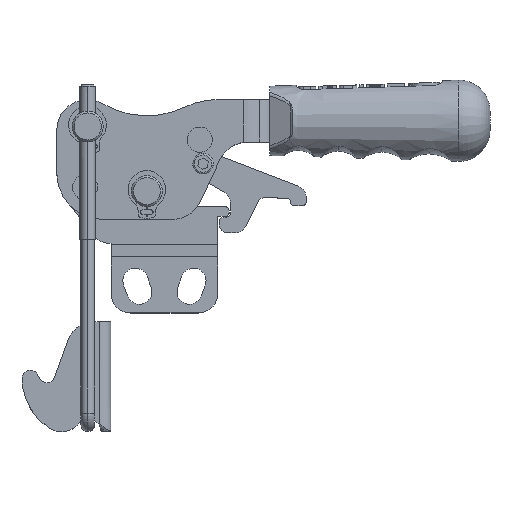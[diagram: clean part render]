
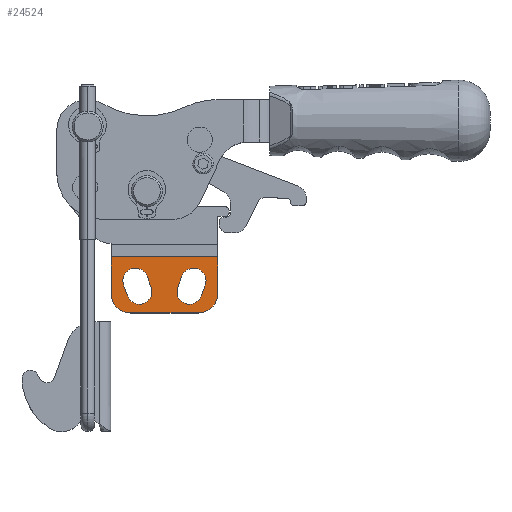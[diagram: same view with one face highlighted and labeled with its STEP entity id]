
A CAD part, top view. The second image highlights one B-rep face of the part: STEP entity #24524.
In plain terms, the highlighted planar face has unit normal (0, 0, 1).
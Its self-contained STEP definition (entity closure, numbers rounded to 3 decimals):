
#19 = ORIENTED_EDGE ( 'NONE', *, *, #10443, .F. ) ;
#318 = EDGE_CURVE ( 'NONE', #23243, #12589, #3083, .T. ) ;
#336 = DIRECTION ( 'NONE',  ( 0., -1., 0. ) ) ;
#1198 = EDGE_CURVE ( 'NONE', #22083, #9588, #5822, .T. ) ;
#2137 = CARTESIAN_POINT ( 'NONE',  ( 4.186, -13.583, 0. ) ) ;
#2166 = AXIS2_PLACEMENT_3D ( 'NONE', #2825, #16429, #14154 ) ;
#2336 = CARTESIAN_POINT ( 'NONE',  ( 22.5, -13., 0. ) ) ;
#2634 = ORIENTED_EDGE ( 'NONE', *, *, #10300, .F. ) ;
#2715 = EDGE_CURVE ( 'NONE', #5722, #26329, #6144, .T. ) ;
#2825 = CARTESIAN_POINT ( 'NONE',  ( 7.25, -12.5, 0. ) ) ;
#3083 = CIRCLE ( 'NONE', #2166, 3.25 ) ;
#3453 = ORIENTED_EDGE ( 'NONE', *, *, #10795, .F. ) ;
#3463 = AXIS2_PLACEMENT_3D ( 'NONE', #22705, #5829, #27393 ) ;
#3555 = CARTESIAN_POINT ( 'NONE',  ( 10.314, -11.417, 0. ) ) ;
#3557 = ORIENTED_EDGE ( 'NONE', *, *, #9623, .T. ) ;
#3639 = DIRECTION ( 'NONE',  ( 0.333, -0.943, 0. ) ) ;
#3735 = EDGE_LOOP ( 'NONE', ( #26085, #3557, #6749, #21512, #20389, #21304 ) ) ;
#4722 = CARTESIAN_POINT ( 'NONE',  ( 20.25, -12.5, 0. ) ) ;
#4758 = FACE_OUTER_BOUND ( 'NONE', #3735, .T. ) ;
#5192 = FACE_BOUND ( 'NONE', #6584, .T. ) ;
#5288 = DIRECTION ( 'NONE',  ( 0., 1., 0. ) ) ;
#5722 = VERTEX_POINT ( 'NONE', #10941 ) ;
#5822 = CIRCLE ( 'NONE', #9421, 5. ) ;
#5827 = AXIS2_PLACEMENT_3D ( 'NONE', #6234, #10332, #15006 ) ;
#5829 = DIRECTION ( 'NONE',  ( 0., 0., 1. ) ) ;
#6144 = LINE ( 'NONE', #13054, #25807 ) ;
#6170 = VECTOR ( 'NONE', #7130, 1000. ) ;
#6234 = CARTESIAN_POINT ( 'NONE',  ( 7.25, -12.5, 0. ) ) ;
#6584 = EDGE_LOOP ( 'NONE', ( #22900, #8949, #19884, #2634, #7538 ) ) ;
#6728 = DIRECTION ( 'NONE',  ( 1., 0., 0. ) ) ;
#6749 = ORIENTED_EDGE ( 'NONE', *, *, #26435, .T. ) ;
#6839 = CARTESIAN_POINT ( 'NONE',  ( 5., -18., 0. ) ) ;
#6990 = VERTEX_POINT ( 'NONE', #8368 ) ;
#7130 = DIRECTION ( 'NONE',  ( -1., 0., 0. ) ) ;
#7196 = CARTESIAN_POINT ( 'NONE',  ( 3.186, -10.755, 0. ) ) ;
#7458 = CARTESIAN_POINT ( 'NONE',  ( 0., -18., 0. ) ) ;
#7503 = ORIENTED_EDGE ( 'NONE', *, *, #21765, .F. ) ;
#7538 = ORIENTED_EDGE ( 'NONE', *, *, #23654, .F. ) ;
#7619 = CIRCLE ( 'NONE', #18917, 3.25 ) ;
#7723 = VECTOR ( 'NONE', #336, 1000. ) ;
#7735 = LINE ( 'NONE', #7458, #12694 ) ;
#7834 = LINE ( 'NONE', #16472, #9356 ) ;
#7914 = ORIENTED_EDGE ( 'NONE', *, *, #2715, .F. ) ;
#8368 = CARTESIAN_POINT ( 'NONE',  ( 27.5, -3.471, 0. ) ) ;
#8949 = ORIENTED_EDGE ( 'NONE', *, *, #26097, .F. ) ;
#9318 = VERTEX_POINT ( 'NONE', #9890 ) ;
#9356 = VECTOR ( 'NONE', #27412, 1000. ) ;
#9421 = AXIS2_PLACEMENT_3D ( 'NONE', #2336, #10974, #6728 ) ;
#9588 = VERTEX_POINT ( 'NONE', #15773 ) ;
#9623 = EDGE_CURVE ( 'NONE', #6990, #21643, #16202, .T. ) ;
#9890 = CARTESIAN_POINT ( 'NONE',  ( 17.186, -11.417, 0. ) ) ;
#10300 = EDGE_CURVE ( 'NONE', #26545, #17621, #22976, .T. ) ;
#10332 = DIRECTION ( 'NONE',  ( 0., 0., 1. ) ) ;
#10427 = EDGE_CURVE ( 'NONE', #13165, #15154, #25208, .T. ) ;
#10443 = EDGE_CURVE ( 'NONE', #26329, #25188, #24747, .T. ) ;
#10795 = EDGE_CURVE ( 'NONE', #25188, #9318, #7834, .T. ) ;
#10941 = CARTESIAN_POINT ( 'NONE',  ( 23.314, -13.583, 0. ) ) ;
#10974 = DIRECTION ( 'NONE',  ( 0., 0., 1. ) ) ;
#11413 = DIRECTION ( 'NONE',  ( 0., -1., 0. ) ) ;
#11557 = VERTEX_POINT ( 'NONE', #7196 ) ;
#11693 = CARTESIAN_POINT ( 'NONE',  ( 0., -3.471, 0. ) ) ;
#11972 = DIRECTION ( 'NONE',  ( 0., 0., 1. ) ) ;
#12338 = DIRECTION ( 'NONE',  ( 0., 1., 0. ) ) ;
#12473 = VERTEX_POINT ( 'NONE', #21296 ) ;
#12589 = VERTEX_POINT ( 'NONE', #21844 ) ;
#12609 = DIRECTION ( 'NONE',  ( 0., 0., 1. ) ) ;
#12694 = VECTOR ( 'NONE', #16373, 1000. ) ;
#13054 = CARTESIAN_POINT ( 'NONE',  ( 23.314, -13.583, 0. ) ) ;
#13165 = VERTEX_POINT ( 'NONE', #25204 ) ;
#13593 = CIRCLE ( 'NONE', #19920, 3.25 ) ;
#13683 = AXIS2_PLACEMENT_3D ( 'NONE', #15949, #24041, #22332 ) ;
#14098 = EDGE_CURVE ( 'NONE', #17621, #11557, #7619, .T. ) ;
#14154 = DIRECTION ( 'NONE',  ( 0., 1., 0. ) ) ;
#14183 = DIRECTION ( 'NONE',  ( 1., 0., 0. ) ) ;
#15006 = DIRECTION ( 'NONE',  ( 0., 1., 0. ) ) ;
#15097 = CARTESIAN_POINT ( 'NONE',  ( 24.314, -10.755, 0. ) ) ;
#15154 = VERTEX_POINT ( 'NONE', #6839 ) ;
#15368 = CARTESIAN_POINT ( 'NONE',  ( 0., 0., 0. ) ) ;
#15672 = AXIS2_PLACEMENT_3D ( 'NONE', #18432, #16458, #14183 ) ;
#15773 = CARTESIAN_POINT ( 'NONE',  ( 27.5, -13., 0. ) ) ;
#15949 = CARTESIAN_POINT ( 'NONE',  ( 9.2, 13.5, 0. ) ) ;
#16202 = LINE ( 'NONE', #26572, #6170 ) ;
#16292 = EDGE_CURVE ( 'NONE', #9588, #6990, #20291, .T. ) ;
#16359 = AXIS2_PLACEMENT_3D ( 'NONE', #4722, #25729, #21730 ) ;
#16373 = DIRECTION ( 'NONE',  ( 1., 0., 0. ) ) ;
#16429 = DIRECTION ( 'NONE',  ( 0., 0., 1. ) ) ;
#16458 = DIRECTION ( 'NONE',  ( 0., 0., 1. ) ) ;
#16472 = CARTESIAN_POINT ( 'NONE',  ( 17.186, -11.417, 0. ) ) ;
#17477 = VECTOR ( 'NONE', #25396, 1000. ) ;
#17584 = CIRCLE ( 'NONE', #5827, 3.25 ) ;
#17621 = VERTEX_POINT ( 'NONE', #27761 ) ;
#17931 = ORIENTED_EDGE ( 'NONE', *, *, #20547, .F. ) ;
#18063 = FACE_BOUND ( 'NONE', #21987, .T. ) ;
#18432 = CARTESIAN_POINT ( 'NONE',  ( 5., -13., 0. ) ) ;
#18917 = AXIS2_PLACEMENT_3D ( 'NONE', #20304, #12609, #12338 ) ;
#19884 = ORIENTED_EDGE ( 'NONE', *, *, #14098, .F. ) ;
#19920 = AXIS2_PLACEMENT_3D ( 'NONE', #20057, #11972, #11413 ) ;
#20057 = CARTESIAN_POINT ( 'NONE',  ( 20.25, -12.5, 0. ) ) ;
#20291 = LINE ( 'NONE', #24850, #22755 ) ;
#20304 = CARTESIAN_POINT ( 'NONE',  ( 6.25, -9.672, 0. ) ) ;
#20342 = PLANE ( 'NONE',  #13683 ) ;
#20389 = ORIENTED_EDGE ( 'NONE', *, *, #21664, .T. ) ;
#20511 = LINE ( 'NONE', #20790, #22329 ) ;
#20547 = EDGE_CURVE ( 'NONE', #9318, #12473, #21798, .T. ) ;
#20790 = CARTESIAN_POINT ( 'NONE',  ( 4.186, -13.583, 0. ) ) ;
#21008 = CARTESIAN_POINT ( 'NONE',  ( 10.314, -11.417, 0. ) ) ;
#21296 = CARTESIAN_POINT ( 'NONE',  ( 20.25, -15.75, 0. ) ) ;
#21304 = ORIENTED_EDGE ( 'NONE', *, *, #1198, .T. ) ;
#21512 = ORIENTED_EDGE ( 'NONE', *, *, #10427, .T. ) ;
#21643 = VERTEX_POINT ( 'NONE', #11693 ) ;
#21664 = EDGE_CURVE ( 'NONE', #15154, #22083, #7735, .T. ) ;
#21730 = DIRECTION ( 'NONE',  ( 0., -1., 0. ) ) ;
#21765 = EDGE_CURVE ( 'NONE', #12473, #5722, #13593, .T. ) ;
#21798 = CIRCLE ( 'NONE', #16359, 3.25 ) ;
#21844 = CARTESIAN_POINT ( 'NONE',  ( 7.25, -15.75, 0. ) ) ;
#21987 = EDGE_LOOP ( 'NONE', ( #17931, #3453, #19, #7914, #7503 ) ) ;
#22083 = VERTEX_POINT ( 'NONE', #22682 ) ;
#22329 = VECTOR ( 'NONE', #3639, 1000. ) ;
#22332 = DIRECTION ( 'NONE',  ( 1., 0., 0. ) ) ;
#22682 = CARTESIAN_POINT ( 'NONE',  ( 22.5, -18., 0. ) ) ;
#22705 = CARTESIAN_POINT ( 'NONE',  ( 21.25, -9.672, 0. ) ) ;
#22755 = VECTOR ( 'NONE', #5288, 1000. ) ;
#22900 = ORIENTED_EDGE ( 'NONE', *, *, #318, .F. ) ;
#22976 = LINE ( 'NONE', #3555, #17477 ) ;
#23243 = VERTEX_POINT ( 'NONE', #2137 ) ;
#23654 = EDGE_CURVE ( 'NONE', #12589, #26545, #17584, .T. ) ;
#24041 = DIRECTION ( 'NONE',  ( 0., 0., 1. ) ) ;
#24524 = ADVANCED_FACE ( 'NONE', ( #18063, #5192, #4758 ), #20342, .T. ) ;
#24747 = CIRCLE ( 'NONE', #3463, 3.25 ) ;
#24850 = CARTESIAN_POINT ( 'NONE',  ( 27.5, 0., 0. ) ) ;
#25188 = VERTEX_POINT ( 'NONE', #27684 ) ;
#25204 = CARTESIAN_POINT ( 'NONE',  ( 0., -13., 0. ) ) ;
#25208 = CIRCLE ( 'NONE', #15672, 5. ) ;
#25396 = DIRECTION ( 'NONE',  ( -0.333, 0.943, 0. ) ) ;
#25570 = DIRECTION ( 'NONE',  ( 0.333, 0.943, 0. ) ) ;
#25729 = DIRECTION ( 'NONE',  ( 0., 0., 1. ) ) ;
#25807 = VECTOR ( 'NONE', #25570, 1000. ) ;
#26085 = ORIENTED_EDGE ( 'NONE', *, *, #16292, .T. ) ;
#26097 = EDGE_CURVE ( 'NONE', #11557, #23243, #20511, .T. ) ;
#26167 = LINE ( 'NONE', #15368, #7723 ) ;
#26329 = VERTEX_POINT ( 'NONE', #15097 ) ;
#26435 = EDGE_CURVE ( 'NONE', #21643, #13165, #26167, .T. ) ;
#26545 = VERTEX_POINT ( 'NONE', #21008 ) ;
#26572 = CARTESIAN_POINT ( 'NONE',  ( 9.2, -3.471, 0. ) ) ;
#27393 = DIRECTION ( 'NONE',  ( 0., -1., 0. ) ) ;
#27412 = DIRECTION ( 'NONE',  ( -0.333, -0.943, 0. ) ) ;
#27684 = CARTESIAN_POINT ( 'NONE',  ( 18.186, -8.588, 0. ) ) ;
#27761 = CARTESIAN_POINT ( 'NONE',  ( 9.314, -8.588, 0. ) ) ;
